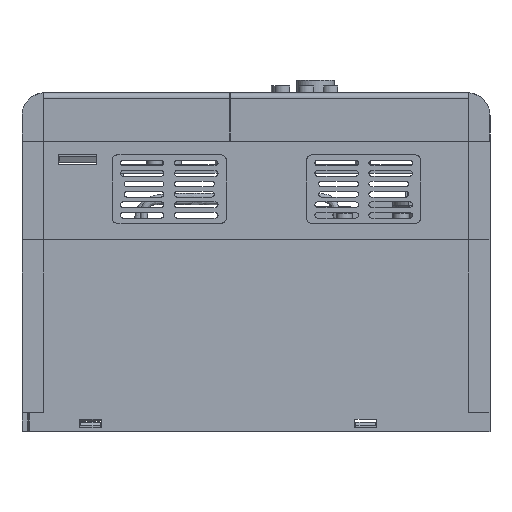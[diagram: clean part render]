
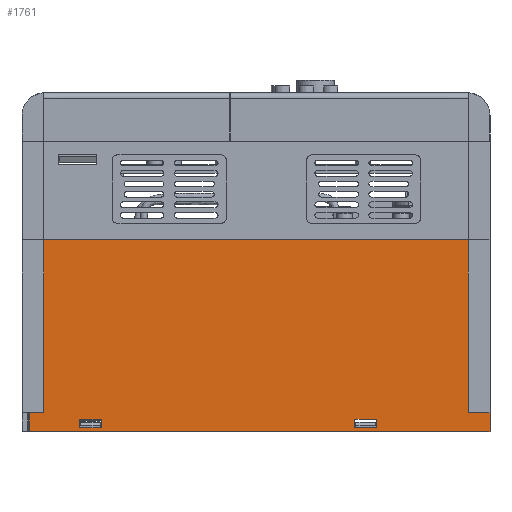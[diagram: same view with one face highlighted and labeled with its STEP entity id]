
A CAD part, left-side view. The second image highlights one B-rep face of the part: STEP entity #1761.
In plain terms, the highlighted planar face has unit normal (-1, 0, 0).
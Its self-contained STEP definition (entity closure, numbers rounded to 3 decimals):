
#1761=ADVANCED_FACE('',(#31652,#31654,#31656),#31658,.T.);
#31652=FACE_BOUND('',#31653,.T.);
#31653=EDGE_LOOP('',(#90220,#90221,#90222,#90223,#90224,#90225,#90226,#90227));
#31654=FACE_BOUND('',#31655,.T.);
#31655=EDGE_LOOP('',(#90228,#90229,#90230,#90231));
#31656=FACE_BOUND('',#31657,.T.);
#31657=EDGE_LOOP('',(#90232,#90233,#90234,#90235));
#31658=PLANE('',#31659);
#31659=AXIS2_PLACEMENT_3D('',#31660,#31661,#31662);
#31660=CARTESIAN_POINT('',(-50.2,156.377,0.));
#31661=DIRECTION('',(-1.,0.,0.));
#31662=DIRECTION('',(0.,-1.,0.));
#90220=ORIENTED_EDGE('',*,*,#134436,.T.);
#90221=ORIENTED_EDGE('',*,*,#134464,.T.);
#90222=ORIENTED_EDGE('',*,*,#134465,.T.);
#90223=ORIENTED_EDGE('',*,*,#134466,.F.);
#90224=ORIENTED_EDGE('',*,*,#134467,.T.);
#90225=ORIENTED_EDGE('',*,*,#134275,.T.);
#90226=ORIENTED_EDGE('',*,*,#134462,.T.);
#90227=ORIENTED_EDGE('',*,*,#134468,.T.);
#90228=ORIENTED_EDGE('',*,*,#134469,.T.);
#90229=ORIENTED_EDGE('',*,*,#134470,.T.);
#90230=ORIENTED_EDGE('',*,*,#134471,.T.);
#90231=ORIENTED_EDGE('',*,*,#134472,.T.);
#90232=ORIENTED_EDGE('',*,*,#134473,.T.);
#90233=ORIENTED_EDGE('',*,*,#134474,.T.);
#90234=ORIENTED_EDGE('',*,*,#134475,.T.);
#90235=ORIENTED_EDGE('',*,*,#134476,.T.);
#134275=EDGE_CURVE('',#155181,#155179,#155182,.T.);
#134436=EDGE_CURVE('',#155437,#155438,#155439,.T.);
#134462=EDGE_CURVE('',#155179,#155485,#155487,.T.);
#134464=EDGE_CURVE('',#155438,#155490,#155491,.F.);
#134465=EDGE_CURVE('',#155490,#155492,#155493,.T.);
#134466=EDGE_CURVE('',#155494,#155492,#155495,.T.);
#134467=EDGE_CURVE('',#155494,#155181,#155496,.T.);
#134468=EDGE_CURVE('',#155485,#155437,#155497,.F.);
#134469=EDGE_CURVE('',#155498,#155499,#155500,.F.);
#134470=EDGE_CURVE('',#155499,#155501,#155502,.F.);
#134471=EDGE_CURVE('',#155501,#155503,#155504,.F.);
#134472=EDGE_CURVE('',#155503,#155498,#155505,.F.);
#134473=EDGE_CURVE('',#155506,#155507,#155508,.F.);
#134474=EDGE_CURVE('',#155507,#155509,#155510,.F.);
#134475=EDGE_CURVE('',#155509,#155511,#155512,.F.);
#134476=EDGE_CURVE('',#155511,#155506,#155513,.F.);
#155179=VERTEX_POINT('',#190669);
#155181=VERTEX_POINT('',#190673);
#155182=LINE('',#190674,#190675);
#155437=VERTEX_POINT('',#191280);
#155438=VERTEX_POINT('',#191281);
#155439=LINE('',#191282,#191283);
#155485=VERTEX_POINT('',#191378);
#155487=LINE('',#191382,#191383);
#155490=VERTEX_POINT('',#191390);
#155491=LINE('',#191391,#191392);
#155492=VERTEX_POINT('',#191394);
#155493=LINE('',#191395,#191396);
#155494=VERTEX_POINT('',#191398);
#155495=LINE('',#191399,#191400);
#155496=LINE('',#191402,#191403);
#155497=LINE('',#191405,#191406);
#155498=VERTEX_POINT('',#191408);
#155499=VERTEX_POINT('',#191409);
#155500=LINE('',#191410,#191411);
#155501=VERTEX_POINT('',#191413);
#155502=LINE('',#191414,#191415);
#155503=VERTEX_POINT('',#191417);
#155504=LINE('',#191418,#191419);
#155505=LINE('',#191421,#191422);
#155506=VERTEX_POINT('',#191424);
#155507=VERTEX_POINT('',#191425);
#155508=LINE('',#191426,#191427);
#155509=VERTEX_POINT('',#191429);
#155510=LINE('',#191430,#191431);
#155511=VERTEX_POINT('',#191433);
#155512=LINE('',#191434,#191435);
#155513=LINE('',#191437,#191438);
#190669=CARTESIAN_POINT('',(-50.2,-86.3,10.));
#190673=CARTESIAN_POINT('',(-50.2,-86.3,0.));
#190674=CARTESIAN_POINT('',(-50.2,-86.3,0.));
#190675=VECTOR('',#190676,1.);
#190676=DIRECTION('',(0.,0.,1.));
#191280=CARTESIAN_POINT('',(-50.2,-74.8,101.));
#191281=CARTESIAN_POINT('',(-50.2,148.8,101.));
#191282=CARTESIAN_POINT('',(-50.2,-74.8,101.));
#191283=VECTOR('',#191284,1.);
#191284=DIRECTION('',(0.,1.,0.));
#191378=CARTESIAN_POINT('',(-50.2,-74.8,10.));
#191382=CARTESIAN_POINT('',(-50.2,-86.3,10.));
#191383=VECTOR('',#191384,1.);
#191384=DIRECTION('',(0.,1.,0.));
#191390=CARTESIAN_POINT('',(-50.2,148.8,10.));
#191391=CARTESIAN_POINT('',(-50.2,148.8,10.));
#191392=VECTOR('',#191393,1.);
#191393=DIRECTION('',(0.,0.,1.));
#191394=CARTESIAN_POINT('',(-50.2,156.377,10.));
#191395=CARTESIAN_POINT('',(-50.2,148.8,10.));
#191396=VECTOR('',#191397,1.);
#191397=DIRECTION('',(0.,1.,0.));
#191398=CARTESIAN_POINT('',(-50.2,156.377,0.));
#191399=CARTESIAN_POINT('',(-50.2,156.377,0.));
#191400=VECTOR('',#191401,1.);
#191401=DIRECTION('',(0.,0.,1.));
#191402=CARTESIAN_POINT('',(-50.2,156.377,0.));
#191403=VECTOR('',#191404,1.);
#191404=DIRECTION('',(0.,-1.,0.));
#191405=CARTESIAN_POINT('',(-50.2,-74.8,101.));
#191406=VECTOR('',#191407,1.);
#191407=DIRECTION('',(0.,0.,-1.));
#191408=CARTESIAN_POINT('',(-50.2,130.,2.));
#191409=CARTESIAN_POINT('',(-50.2,130.,6.5));
#191410=CARTESIAN_POINT('',(-50.2,130.,6.5));
#191411=VECTOR('',#191412,1.);
#191412=DIRECTION('',(0.,0.,-1.));
#191413=CARTESIAN_POINT('',(-50.2,118.5,6.5));
#191414=CARTESIAN_POINT('',(-50.2,118.5,6.5));
#191415=VECTOR('',#191416,1.);
#191416=DIRECTION('',(0.,1.,0.));
#191417=CARTESIAN_POINT('',(-50.2,118.5,2.));
#191418=CARTESIAN_POINT('',(-50.2,118.5,2.));
#191419=VECTOR('',#191420,1.);
#191420=DIRECTION('',(0.,0.,1.));
#191421=CARTESIAN_POINT('',(-50.2,130.,2.));
#191422=VECTOR('',#191423,1.);
#191423=DIRECTION('',(0.,-1.,0.));
#191424=CARTESIAN_POINT('',(-50.2,-15.1,6.5));
#191425=CARTESIAN_POINT('',(-50.2,-26.6,6.5));
#191426=CARTESIAN_POINT('',(-50.2,-26.6,6.5));
#191427=VECTOR('',#191428,1.);
#191428=DIRECTION('',(0.,1.,0.));
#191429=CARTESIAN_POINT('',(-50.2,-26.6,2.));
#191430=CARTESIAN_POINT('',(-50.2,-26.6,2.));
#191431=VECTOR('',#191432,1.);
#191432=DIRECTION('',(0.,0.,1.));
#191433=CARTESIAN_POINT('',(-50.2,-15.1,2.));
#191434=CARTESIAN_POINT('',(-50.2,-15.1,2.));
#191435=VECTOR('',#191436,1.);
#191436=DIRECTION('',(0.,-1.,0.));
#191437=CARTESIAN_POINT('',(-50.2,-15.1,6.5));
#191438=VECTOR('',#191439,1.);
#191439=DIRECTION('',(0.,0.,-1.));
